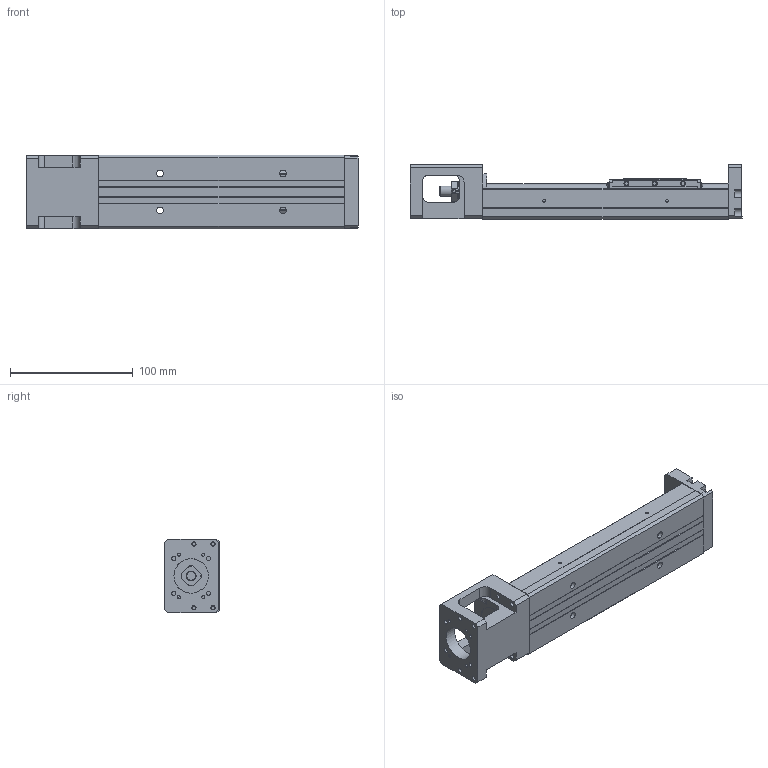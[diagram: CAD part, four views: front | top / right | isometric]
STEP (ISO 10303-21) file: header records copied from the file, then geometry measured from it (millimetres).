
FILE_DESCRIPTION(/* description */ (''),/* implementation_level */ '2;1');
FILE_NAME(/* name */ 'KP33N-200-D.stp',/* time_stamp */ '2020-06-04T14:04:52+08:00',/* author */ (''),/* organization */ (''),/* preprocessor_version */ 'ST-DEVELOPER v14',/* originating_system */ 'SIEMENS PLM Software NX 8.0',/* authorisation */ '');
FILE_SCHEMA (('AUTOMOTIVE_DESIGN { 1 0 10303 214 3 1 1 1 }'));
Length unit declared in the file: millimetre
Products named in the file (1): model1
Bounding box: 270 x 44.45 x 60 mm (x, y, z)
Volume: 353954.7 mm3; surface area: 99645.9 mm2
Topology: 5 solids, 10 shells, 617 faces, 1577 edges, 1038 vertices
Faces by surface type: plane 362, cylinder 168, bspline 31, cone 24, extrusion 21, torus 9, revolution 2
Full cylindrical faces by diameter (mm): 1.6 x2, 1.65 x4, 2.15 x2, 2.42 x4, 2.45 x4, 2.5 x8, 3 x3, 3.2 x4, 3.3 x4, 3.4 x3, 3.5 x10, 3.969 x1, 4 x6, 4.001 x1, 4.135 x4, 5.5 x4, 6 x4, 7.6 x1, 8 x5, 9.5 x4, 10.72 x3, 11.8 x2, 12 x6, 12.8 x1, 13 x2, 14 x1, 17.38 x3, 21.5 x1, 22 x2, 28 x1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
Entity records: 32861 total; most frequent: CARTESIAN_POINT 15404, DIRECTION 2796, ORIENTED_EDGE 2750, EDGE_CURVE 1375, AXIS2_PLACEMENT_3D 976, VERTEX_POINT 971, EDGE_LOOP 864, VECTOR 842
